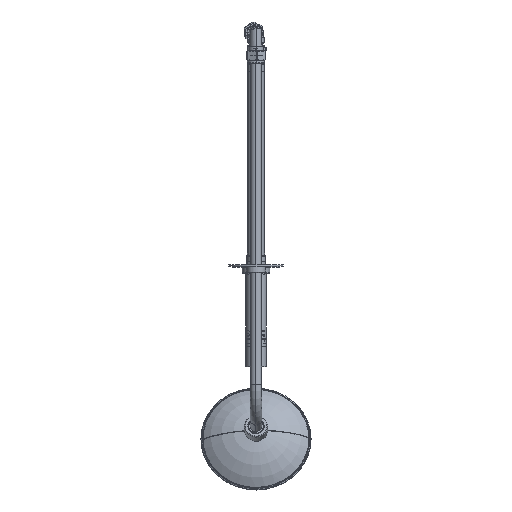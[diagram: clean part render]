
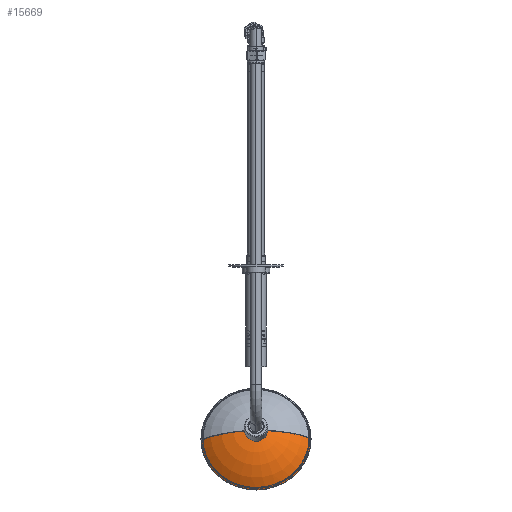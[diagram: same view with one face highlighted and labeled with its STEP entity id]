
A CAD part, top view. The second image highlights one B-rep face of the part: STEP entity #15669.
In plain terms, the highlighted toroidal (fillet/blend) face has major radius 0.995 mm and minor radius 99.017 mm.
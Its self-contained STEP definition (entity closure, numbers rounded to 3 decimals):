
#6 = VERTEX_POINT ( 'NONE', #7874 ) ;
#565 = EDGE_LOOP ( 'NONE', ( #25018, #20213, #13794, #3732 ) ) ;
#779 = EDGE_CURVE ( 'NONE', #8999, #13571, #2498, .T. ) ;
#2498 = CIRCLE ( 'NONE', #5762, 99.017 ) ;
#3732 = ORIENTED_EDGE ( 'NONE', *, *, #14205, .T. ) ;
#5762 = AXIS2_PLACEMENT_3D ( 'NONE', #28212, #19084, #7812 ) ;
#6447 = CARTESIAN_POINT ( 'NONE',  ( 0.995, 0., 69.012 ) ) ;
#6701 = EDGE_CURVE ( 'NONE', #8999, #6, #25825, .T. ) ;
#7812 = DIRECTION ( 'NONE',  ( -1., 0., 0. ) ) ;
#7874 = CARTESIAN_POINT ( 'NONE',  ( 13., 0., -29.275 ) ) ;
#8513 = TOROIDAL_SURFACE ( 'NONE', #28673, 0.995, 99.017 ) ;
#8999 = VERTEX_POINT ( 'NONE', #25203 ) ;
#9438 = DIRECTION ( 'NONE',  ( 0., 0., -1. ) ) ;
#9651 = CARTESIAN_POINT ( 'NONE',  ( -71.161, 0., -0.853 ) ) ;
#9862 = VERTEX_POINT ( 'NONE', #12716 ) ;
#10944 = EDGE_CURVE ( 'NONE', #6, #9862, #18440, .T. ) ;
#11699 = DIRECTION ( 'NONE',  ( 1., 0., 0. ) ) ;
#12716 = CARTESIAN_POINT ( 'NONE',  ( 71.161, 0., -0.853 ) ) ;
#12801 = AXIS2_PLACEMENT_3D ( 'NONE', #6447, #13482, #26691 ) ;
#13482 = DIRECTION ( 'NONE',  ( 0., -1., 0. ) ) ;
#13571 = VERTEX_POINT ( 'NONE', #9651 ) ;
#13794 = ORIENTED_EDGE ( 'NONE', *, *, #10944, .T. ) ;
#14205 = EDGE_CURVE ( 'NONE', #9862, #13571, #25315, .T. ) ;
#14557 = CARTESIAN_POINT ( 'NONE',  ( 0., 0., -29.275 ) ) ;
#15669 = ADVANCED_FACE ( 'NONE', ( #27417 ), #8513, .T. ) ;
#18440 = CIRCLE ( 'NONE', #12801, 99.017 ) ;
#18645 = CARTESIAN_POINT ( 'NONE',  ( 0., 0., -0.853 ) ) ;
#18872 = CARTESIAN_POINT ( 'NONE',  ( 0., 0., 69.012 ) ) ;
#19084 = DIRECTION ( 'NONE',  ( 0., 1., 0. ) ) ;
#20130 = AXIS2_PLACEMENT_3D ( 'NONE', #18645, #9438, #27610 ) ;
#20194 = AXIS2_PLACEMENT_3D ( 'NONE', #14557, #23103, #27636 ) ;
#20213 = ORIENTED_EDGE ( 'NONE', *, *, #6701, .T. ) ;
#23103 = DIRECTION ( 'NONE',  ( 0., 0., 1. ) ) ;
#25018 = ORIENTED_EDGE ( 'NONE', *, *, #779, .F. ) ;
#25203 = CARTESIAN_POINT ( 'NONE',  ( -13., 0., -29.275 ) ) ;
#25315 = CIRCLE ( 'NONE', #20130, 71.161 ) ;
#25825 = CIRCLE ( 'NONE', #20194, 13. ) ;
#26691 = DIRECTION ( 'NONE',  ( 0., 0., -1. ) ) ;
#27417 = FACE_OUTER_BOUND ( 'NONE', #565, .T. ) ;
#27610 = DIRECTION ( 'NONE',  ( 1., 0., 0. ) ) ;
#27636 = DIRECTION ( 'NONE',  ( 1., 0., 0. ) ) ;
#27841 = DIRECTION ( 'NONE',  ( 0., 0., 1. ) ) ;
#28212 = CARTESIAN_POINT ( 'NONE',  ( -0.995, 0., 69.012 ) ) ;
#28673 = AXIS2_PLACEMENT_3D ( 'NONE', #18872, #27841, #11699 ) ;
